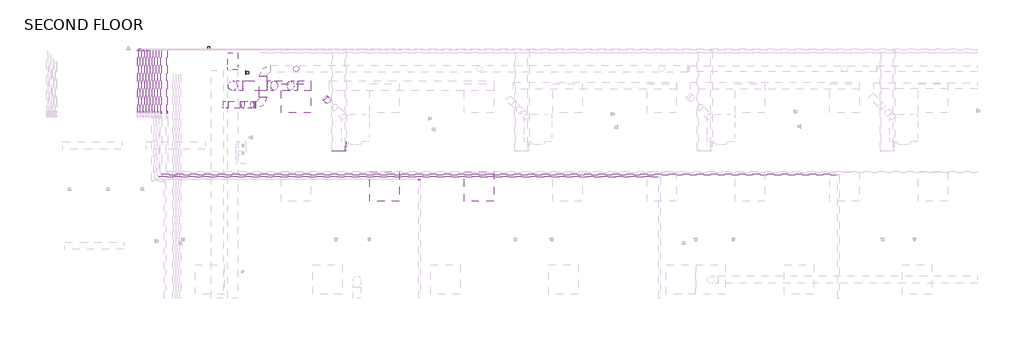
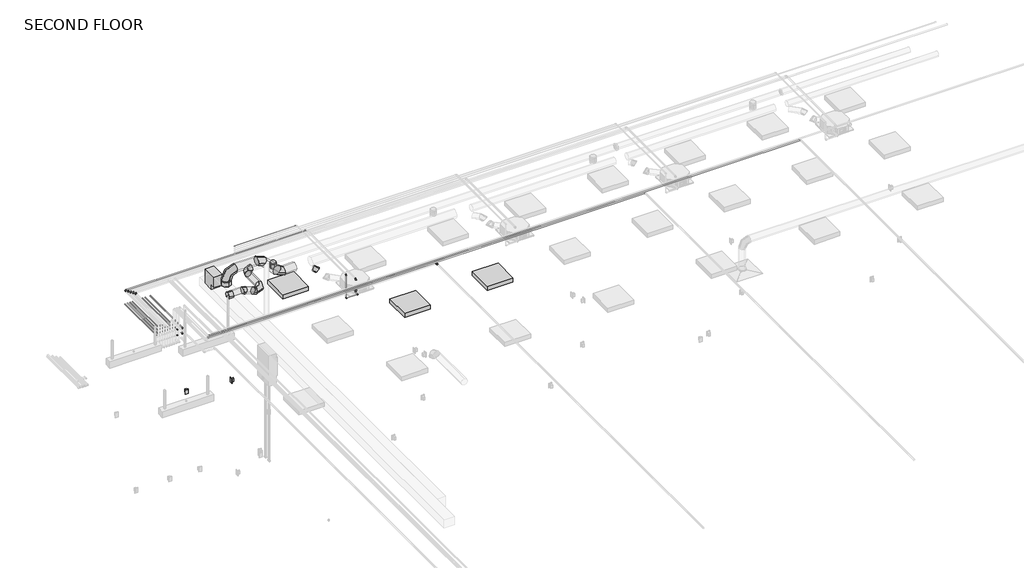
# One storey, part 9 of 12: 20 pipe segments, 15 pipe fittings, 12 duct fittings, 10 duct segments, 3 light fixtures, 2 proxies.
"""IFC4 building model written with IfcOpenShell, lengths in millimetres."""

from ifc_helpers import new_model, si_unit, point, frame, frame_2d, origin, place, context, project, spatial, circle_curve, trimmed, segment, composite_curve, outline, extrude, transform, mapped, element, save
from components import duplex_receptacle_countertop_10251bba, rectangular_elbow_mitered_transition_standard_2c7a3de9, round_elbow_1_d_a253342a, round_elbow_1_d_b37ad80b, round_elbow_1_d_147a1fa0, round_elbow_1_d_ab3aa7ba, round_elbow_1_d_bb13c7cb, round_takeoff_standard_d3b0d0f9, round_takeoff_standard_0d53327c, round_takeoff_standard_bb6ed057, troffer_corner_insert_2x2_3lamp_e67c7f8f, elbow_generic_standard_c06ac706, elbow_generic_standard_a088f956

model = new_model("IFC4")

# Units and contexts
model_context = context("Model", 3, world=origin())
ifc_project = project(units=[si_unit("LENGTHUNIT", "METRE", prefix="MILLI")], contexts=[model_context])

# Site, building, storey
site = spatial("IfcSite", under=ifc_project)
building = spatial("IfcBuilding", under=site)
storey = spatial("IfcBuildingStorey", under=building, Name="SECOND FLOOR", Elevation=34544.0)

# Proxies
placement = place(None, origin())
duplex_receptacle_countertop_shape = duplex_receptacle_countertop_10251bba(model_context)
element("IfcBuildingElementProxy", 1, Name="Duplex Receptacle : Standard", ObjectType="Duplex Receptacle : Standard", at=placement, inside=storey, context=model_context, shape_type="MappedRepresentation", body=[
    mapped(duplex_receptacle_countertop_shape, transform((-6527.0453573, 7674.9695005, 34696.4), x_axis=(1.0, 0.0, 0.0), y_axis=(0.0, 0.0, 1.0), z_axis=(0.0, -1.0, 0.0))),
])
element("IfcBuildingElementProxy", 2, Name="Duplex Receptacle : Standard", ObjectType="Duplex Receptacle : Standard", at=placement, inside=storey, context=model_context, shape_type="MappedRepresentation", body=[
    mapped(duplex_receptacle_countertop_shape, transform((-5755.3204607, 7190.1860032, 35001.2), x_axis=(0.0, -1.0, 0.0), y_axis=(0.0, 0.0, 1.0), z_axis=(-1.0, 0.0, 0.0))),
])

# Duct fittings
rectangular_elbow_mitered_transition_standard_shape = rectangular_elbow_mitered_transition_standard_2c7a3de9(model_context)
element("IfcDuctFitting", 3, ObjectType="Rectangular Elbow - Mitered - Transition : Standard", at=placement, inside=storey, context=model_context, shape_type="MappedRepresentation", body=[
    mapped(rectangular_elbow_mitered_transition_standard_shape, transform((-6029.8204015, 7478.1195005, 37541.2), x_axis=(0.0, 1.0, 0.0), y_axis=(0.0, 0.0, -1.0), z_axis=(-1.0, 0.0, 0.0))),
])
round_elbow_1_d_shape = round_elbow_1_d_a253342a(model_context)
element("IfcDuctFitting", 4, ObjectType="Round Elbow : 1 D", at=placement, inside=storey, context=model_context, shape_type="MappedRepresentation", body=[
    mapped(round_elbow_1_d_shape, transform((-6029.8204015, 6917.6422212, 37998.4), x_axis=(0.0, 0.0, 1.0), y_axis=(1.0, 0.0, 0.0), z_axis=(0.0, 1.0, 0.0))),
])
round_elbow_1_d_2_shape = round_elbow_1_d_b37ad80b(model_context)
element("IfcDuctFitting", 5, ObjectType="Round Elbow : 1 D", at=placement, inside=storey, context=model_context, shape_type="MappedRepresentation", body=[
    mapped(round_elbow_1_d_2_shape, transform((-5401.3079607, 7268.5695005, 37592.0), x_axis=(-1.0, 0.0, 0.0), y_axis=(0.0, -1.0, 0.0), z_axis=(0.0, 0.0, 1.0))),
])
element("IfcDuctFitting", 6, ObjectType="Round Elbow : 1 D", at=placement, inside=storey, context=model_context, shape_type="MappedRepresentation", body=[
    mapped(round_elbow_1_d_2_shape, transform((-5401.3079607, 6523.5557505, 37592.0), x_axis=(1.0, 0.0, 0.0), y_axis=(0.0, 1.0, 0.0), z_axis=(0.0, 0.0, 1.0))),
])
round_elbow_1_d_3_shape = round_elbow_1_d_147a1fa0(model_context)
element("IfcDuctFitting", 7, ObjectType="Round Elbow : 1 D", at=placement, inside=storey, context=model_context, shape_type="MappedRepresentation", body=[
    mapped(round_elbow_1_d_3_shape, transform((-5844.3927822, 6523.5557505, 37693.6), x_axis=(1.0, 0.0, 0.0), y_axis=(0.0, 0.0, -1.0), z_axis=(0.0, 1.0, 0.0))),
])
element("IfcDuctFitting", 8, ObjectType="Round Elbow : 1 D", at=placement, inside=storey, context=model_context, shape_type="MappedRepresentation", body=[
    mapped(round_elbow_1_d_3_shape, transform((-5599.1089295, 6523.5557505, 37592.0), x_axis=(0.9238793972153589, 0.0, -0.3826837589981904), y_axis=(0.3826837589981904, 0.0, 0.9238793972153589), z_axis=(0.0, -1.0, 0.0))),
])
round_elbow_1_d_4_shape = round_elbow_1_d_ab3aa7ba(model_context)
element("IfcDuctFitting", 9, ObjectType="Round Elbow : 1 D", at=placement, inside=storey, context=model_context, shape_type="MappedRepresentation", body=[
    mapped(round_elbow_1_d_4_shape, transform((-4771.0346937, 6917.6422212, 37541.2), x_axis=(0.7071067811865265, 0.0, -0.7071067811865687), y_axis=(0.7071067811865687, 0.0, 0.7071067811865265), z_axis=(0.0, -1.0, 0.0))),
])
element("IfcDuctFitting", 10, ObjectType="Round Elbow : 1 D", at=placement, inside=storey, context=model_context, shape_type="MappedRepresentation", body=[
    mapped(round_elbow_1_d_4_shape, transform((-5228.2346937, 6917.6422212, 37998.4), x_axis=(-0.707106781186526, 0.0, 0.707106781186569), y_axis=(-0.707106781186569, 0.0, -0.707106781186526), z_axis=(0.0, -1.0, 0.0))),
])
round_elbow_1_d_5_shape = round_elbow_1_d_bb13c7cb(model_context)
element("IfcDuctFitting", 11, ObjectType="Round Elbow : 1 D", at=placement, inside=storey, context=model_context, shape_type="MappedRepresentation", body=[
    mapped(round_elbow_1_d_5_shape, transform((-4074.9010189, 6626.3750587, 37541.2), x_axis=(0.7071067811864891, -0.707106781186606, 0.0), y_axis=(0.0, 0.0, -1.0), z_axis=(0.707106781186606, 0.7071067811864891, 0.0))),
])
round_takeoff_standard_shape = round_takeoff_standard_d3b0d0f9(model_context)
element("IfcDuctFitting", 12, ObjectType="Round Takeoff : Standard", at=placement, inside=storey, context=model_context, shape_type="MappedRepresentation", body=[
    mapped(round_takeoff_standard_shape, transform((-6029.8204015, 6917.6422212, 37668.2), x_axis=(0.0, 0.0, 1.0), y_axis=(0.0, 1.0, 0.0), z_axis=(-1.0, 0.0, 0.0))),
])
round_takeoff_standard_2_shape = round_takeoff_standard_0d53327c(model_context)
element("IfcDuctFitting", 13, ObjectType="Round Takeoff : Standard", at=placement, inside=storey, context=model_context, shape_type="MappedRepresentation", body=[
    mapped(round_takeoff_standard_2_shape, transform((-4717.0954607, 7268.5695005, 37515.8), x_axis=(0.0, 0.0, -1.0), y_axis=(-1.0, 0.0, 0.0), z_axis=(0.0, 1.0, 0.0))),
])
round_takeoff_standard_3_shape = round_takeoff_standard_bb6ed057(model_context)
element("IfcDuctFitting", 14, ObjectType="Round Takeoff : Standard", at=placement, inside=storey, context=model_context, shape_type="MappedRepresentation", body=[
    mapped(round_takeoff_standard_3_shape, transform((-6220.3126806, 6523.5557505, 37693.6), x_axis=(1.0, 0.0, 0.0), y_axis=(0.0, -1.0, 0.0), z_axis=(0.0, 0.0, -1.0))),
])

# Duct segments
element("IfcDuctSegment", 15, ObjectType="Taps / Short Radius", at=placement, inside=storey, context=model_context, shape_type="SweptSolid", body=[
    extrude(outline(composite_curve([segment(trimmed(circle_curve(frame_2d((37592.0, -5401.3079607)), 76.2), [point((37592.0, -5477.5079607))], [point((37515.8, -5401.3079607))], False, "CARTESIAN"), True, "CONTINUOUS"), segment(trimmed(circle_curve(frame_2d((37592.0, -5401.3079607)), 76.2), [point((37515.8, -5401.3079607))], [point((37592.0, -5325.1079607))], False, "CARTESIAN"), True, "CONTINUOUS"), segment(trimmed(circle_curve(frame_2d((37592.0, -5401.3079607)), 76.2), [point((37592.0, -5325.1079607))], [point((37668.2, -5401.3079607))], False, "CARTESIAN"), True, "CONTINUOUS"), segment(trimmed(circle_curve(frame_2d((37592.0, -5401.3079607)), 76.2), [point((37668.2, -5401.3079607))], [point((37592.0, -5477.5079607))], False, "CARTESIAN"), True, "CONTINUOUS")], self_intersect=False)), frame((0.0, 6675.9557505, 0.0), z_axis=(0.0, 1.0, 0.0), x_axis=(0.0, 0.0, 1.0)), (0.0, 0.0, 1.0), 440.21375),
])
element("IfcDuctSegment", 16, ObjectType="Taps / Short Radius", at=placement, inside=storey, context=model_context, shape_type="SweptSolid", body=[
    extrude(outline(composite_curve([segment(trimmed(circle_curve(frame_2d((0.0, 63.5)), 63.5), [point((-63.5, 63.5))], [point((0.0, 127.0))], False, "CARTESIAN"), True, "CONTINUOUS"), segment(trimmed(circle_curve(frame_2d((0.0, 63.5)), 63.5), [point((0.0, 127.0))], [point((63.5, 63.5))], False, "CARTESIAN"), True, "CONTINUOUS"), segment(trimmed(circle_curve(frame_2d((0.0, 63.5)), 63.5), [point((63.5, 63.5))], [point((0.0, 0.0))], False, "CARTESIAN"), True, "CONTINUOUS"), segment(trimmed(circle_curve(frame_2d((0.0, 63.5)), 63.5), [point((0.0, 0.0))], [point((-63.5, 63.5))], False, "CARTESIAN"), True, "CONTINUOUS")], self_intersect=False)), frame((-4717.0954607, 7205.0695005, 37388.8), z_axis=(0.0, -3.069544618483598e-12, 1.0), x_axis=(1.0, 0.0, 0.0)), (0.0, 0.0, 1.0), 25.4),
])
element("IfcDuctSegment", 17, ObjectType="Taps / Short Radius", at=placement, inside=storey, context=model_context, shape_type="SweptSolid", body=[
    extrude(outline(composite_curve([segment(trimmed(circle_curve(frame_2d((6523.5557505, 37592.0)), 76.2), [point((6447.3557505, 37592.0))], [point((6523.5557505, 37668.2))], False, "CARTESIAN"), True, "CONTINUOUS"), segment(trimmed(circle_curve(frame_2d((6523.5557505, 37592.0)), 76.2), [point((6523.5557505, 37668.2))], [point((6599.7557505, 37592.0))], False, "CARTESIAN"), True, "CONTINUOUS"), segment(trimmed(circle_curve(frame_2d((6523.5557505, 37592.0)), 76.2), [point((6599.7557505, 37592.0))], [point((6523.5557505, 37515.8))], False, "CARTESIAN"), True, "CONTINUOUS"), segment(trimmed(circle_curve(frame_2d((6523.5557505, 37592.0)), 76.2), [point((6523.5557505, 37515.8))], [point((6447.3557505, 37592.0))], False, "CARTESIAN"), True, "CONTINUOUS")], self_intersect=False)), frame((-5568.7946567, 0.0, 0.0), z_axis=(1.0, 0.0, 0.0), x_axis=(0.0, 1.0, 0.0)), (0.0, 0.0, 1.0), 15.086696),
])
element("IfcDuctSegment", 18, ObjectType="Taps / Short Radius", at=placement, inside=storey, context=model_context, shape_type="SweptSolid", body=[
    extrude(outline(composite_curve([segment(trimmed(circle_curve(frame_2d((6523.5557505, 37693.6)), 76.2), [point((6447.3557505, 37693.6))], [point((6523.5557505, 37769.8))], False, "CARTESIAN"), True, "CONTINUOUS"), segment(trimmed(circle_curve(frame_2d((6523.5557505, 37693.6)), 76.2), [point((6523.5557505, 37769.8))], [point((6599.7557505, 37693.6))], False, "CARTESIAN"), True, "CONTINUOUS"), segment(trimmed(circle_curve(frame_2d((6523.5557505, 37693.6)), 76.2), [point((6599.7557505, 37693.6))], [point((6523.5557505, 37617.4))], False, "CARTESIAN"), True, "CONTINUOUS"), segment(trimmed(circle_curve(frame_2d((6523.5557505, 37693.6)), 76.2), [point((6523.5557505, 37617.4))], [point((6447.3557505, 37693.6))], False, "CARTESIAN"), True, "CONTINUOUS")], self_intersect=False)), frame((-6118.7126806, 0.0, 0.0), z_axis=(1.0, 0.0, 0.0), x_axis=(0.0, 1.0, 0.0)), (0.0, 0.0, 1.0), 244.0056256),
])
element("IfcDuctSegment", 19, ObjectType="Taps / Short Radius", at=placement, inside=storey, context=model_context, shape_type="SweptSolid", body=[
    extrude(outline(composite_curve([segment(trimmed(circle_curve(frame_2d((0.0, -76.2)), 76.2), [point((0.0, -152.4))], [point((-76.2, -76.2))], False, "CARTESIAN"), True, "CONTINUOUS"), segment(trimmed(circle_curve(frame_2d((0.0, -76.2)), 76.2), [point((-76.2, -76.2))], [point((0.0, 0.0))], False, "CARTESIAN"), True, "CONTINUOUS"), segment(trimmed(circle_curve(frame_2d((0.0, -76.2)), 76.2), [point((0.0, 0.0))], [point((76.1999999, -76.2))], False, "CARTESIAN"), True, "CONTINUOUS"), segment(trimmed(circle_curve(frame_2d((0.0, -76.2)), 76.2), [point((76.1999999, -76.2))], [point((0.0, -152.4))], False, "CARTESIAN"), True, "CONTINUOUS")], self_intersect=False)), frame((-5627.1156616, 6599.7557505, 37603.6007799), z_axis=(-0.9238793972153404, 0.0, 0.3826837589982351), x_axis=(0.3826837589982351, 0.0, 0.9238793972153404)), (0.0, 0.0, 1.0), 204.8648223),
])
element("IfcDuctSegment", 20, ObjectType="Taps / Short Radius", at=placement, inside=storey, context=model_context, shape_type="SweptSolid", body=[
    extrude(outline(composite_curve([segment(trimmed(circle_curve(frame_2d((6917.6422212, 37541.2)), 101.6), [point((6816.0422212, 37541.2))], [point((6917.6422212, 37642.8))], False, "CARTESIAN"), True, "CONTINUOUS"), segment(trimmed(circle_curve(frame_2d((6917.6422212, 37541.2)), 101.6), [point((6917.6422212, 37642.8))], [point((7019.2422212, 37541.2))], False, "CARTESIAN"), True, "CONTINUOUS"), segment(trimmed(circle_curve(frame_2d((6917.6422212, 37541.2)), 101.6), [point((7019.2422212, 37541.2))], [point((6917.6422212, 37439.6))], False, "CARTESIAN"), True, "CONTINUOUS"), segment(trimmed(circle_curve(frame_2d((6917.6422212, 37541.2)), 101.6), [point((6917.6422212, 37439.6))], [point((6816.0422212, 37541.2))], False, "CARTESIAN"), True, "CONTINUOUS")], self_intersect=False)), frame((-4686.8664978, 0.0, 0.0), z_axis=(1.0, 0.0, 0.0), x_axis=(0.0, 1.0, 0.0)), (0.0, 0.0, 1.0), 275.7970359),
])
element("IfcDuctSegment", 21, ObjectType="Taps / Short Radius", at=placement, inside=storey, context=model_context, shape_type="SweptSolid", body=[
    extrude(outline(composite_curve([segment(trimmed(circle_curve(frame_2d((0.0, -101.6)), 101.6), [point((0.0, 0.0))], [point((101.6, -101.6))], False, "CARTESIAN"), True, "CONTINUOUS"), segment(trimmed(circle_curve(frame_2d((0.0, -101.6)), 101.6), [point((101.6, -101.6))], [point((0.0, -203.2))], False, "CARTESIAN"), True, "CONTINUOUS"), segment(trimmed(circle_curve(frame_2d((0.0, -101.6)), 101.6), [point((0.0, -203.2))], [point((-101.6, -101.6))], False, "CARTESIAN"), True, "CONTINUOUS"), segment(trimmed(circle_curve(frame_2d((0.0, -101.6)), 101.6), [point((-101.6, -101.6))], [point((0.0, 0.0))], False, "CARTESIAN"), True, "CONTINUOUS")], self_intersect=False)), frame((-4830.5505958, 7019.2422212, 37600.7159021), z_axis=(-0.7071067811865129, 0.0, 0.7071067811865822), x_axis=(0.7071067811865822, 0.0, 0.7071067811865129)), (0.0, 0.0, 1.0), 478.242049),
])
element("IfcDuctSegment", 22, ObjectType="Taps / Short Radius", at=placement, inside=storey, context=model_context, shape_type="SweptSolid", body=[
    extrude(outline(composite_curve([segment(trimmed(circle_curve(frame_2d((0.0, -63.5)), 63.5), [point((-63.5, -63.5))], [point((0.0, 0.0))], False, "CARTESIAN"), True, "CONTINUOUS"), segment(trimmed(circle_curve(frame_2d((0.0, -63.5)), 63.5), [point((0.0, 0.0))], [point((63.5, -63.5))], False, "CARTESIAN"), True, "CONTINUOUS"), segment(trimmed(circle_curve(frame_2d((0.0, -63.5)), 63.5), [point((63.5, -63.5))], [point((0.0, -127.0))], False, "CARTESIAN"), True, "CONTINUOUS"), segment(trimmed(circle_curve(frame_2d((0.0, -63.5)), 63.5), [point((0.0, -127.0))], [point((-63.5, -63.5))], False, "CARTESIAN"), True, "CONTINUOUS")], self_intersect=False)), frame((-4103.4147276, 6654.8887674, 37477.7), z_axis=(-0.7071067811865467, 0.7071067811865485, 0.0), x_axis=(0.7071067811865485, 0.7071067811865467, 0.0)), (0.0, 0.0, 1.0), 20.7213021),
])
element("IfcDuctSegment", 23, ObjectType="Taps / Short Radius", at=placement, inside=storey, context=model_context, shape_type="SweptSolid", body=[
    extrude(outline(composite_curve([segment(trimmed(circle_curve(frame_2d((6917.6422212, 37998.4)), 101.6), [point((6816.0422212, 37998.4))], [point((6917.6422212, 38100.0))], False, "CARTESIAN"), True, "CONTINUOUS"), segment(trimmed(circle_curve(frame_2d((6917.6422212, 37998.4)), 101.6), [point((6917.6422212, 38100.0))], [point((7019.2422212, 37998.4))], False, "CARTESIAN"), True, "CONTINUOUS"), segment(trimmed(circle_curve(frame_2d((6917.6422212, 37998.4)), 101.6), [point((7019.2422212, 37998.4))], [point((6917.6422212, 37896.8))], False, "CARTESIAN"), True, "CONTINUOUS"), segment(trimmed(circle_curve(frame_2d((6917.6422212, 37998.4)), 101.6), [point((6917.6422212, 37896.8))], [point((6816.0422212, 37998.4))], False, "CARTESIAN"), True, "CONTINUOUS")], self_intersect=False)), frame((-5826.6204015, 0.0, 0.0), z_axis=(1.0, 0.0, 0.0), x_axis=(0.0, 1.0, 0.0)), (0.0, 0.0, 1.0), 514.2175119),
])
element("IfcDuctSegment", 24, ObjectType="Taps / Short Radius", at=placement, inside=storey, context=model_context, shape_type="SweptSolid", body=[
    extrude(outline(composite_curve([segment(trimmed(circle_curve(frame_2d((0.0, 101.6)), 101.6), [point((0.0, 0.0))], [point((-101.6, 101.6))], False, "CARTESIAN"), True, "CONTINUOUS"), segment(trimmed(circle_curve(frame_2d((0.0, 101.6)), 101.6), [point((-101.6, 101.6))], [point((0.0, 203.2))], False, "CARTESIAN"), True, "CONTINUOUS"), segment(trimmed(circle_curve(frame_2d((0.0, 101.6)), 101.6), [point((0.0, 203.2))], [point((101.6, 101.6))], False, "CARTESIAN"), True, "CONTINUOUS"), segment(trimmed(circle_curve(frame_2d((0.0, 101.6)), 101.6), [point((101.6, 101.6))], [point((0.0, 0.0))], False, "CARTESIAN"), True, "CONTINUOUS")], self_intersect=False)), frame((-6029.8204015, 6816.0422212, 37769.8), z_axis=(0.0, -1.0658141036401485e-12, 1.0), x_axis=(1.0, 0.0, 0.0)), (0.0, 0.0, 1.0), 25.4),
])

# Light fixtures
troffer_corner_insert_2x2_3lamp_shape = troffer_corner_insert_2x2_3lamp_e67c7f8f(model_context)
element("IfcLightFixture", 25, ObjectType="Troffer Corner Insert : 2x2 3Lamp", at=placement, inside=storey, context=model_context, shape_type="MappedRepresentation", body=[
    mapped(troffer_corner_insert_2x2_3lamp_shape, transform((-4717.0954607, 6658.9695005, 34848.8), x_axis=(1.0, 0.0, 0.0), y_axis=(0.0, 1.0, 0.0), z_axis=(0.0, 0.0, 1.0))),
])
element("IfcLightFixture", 26, ObjectType="Troffer Corner Insert : 2x2 3Lamp", at=placement, inside=storey, context=model_context, shape_type="MappedRepresentation", body=[
    mapped(troffer_corner_insert_2x2_3lamp_shape, transform((-2888.2954607, 4830.1695005, 34848.8), x_axis=(1.0, 0.0, 0.0), y_axis=(0.0, 1.0, 0.0), z_axis=(0.0, 0.0, 1.0))),
])
element("IfcLightFixture", 27, ObjectType="Troffer Corner Insert : 2x2 3Lamp", at=placement, inside=storey, context=model_context, shape_type="MappedRepresentation", body=[
    mapped(troffer_corner_insert_2x2_3lamp_shape, transform((-935.6704607, 4830.1695005, 34848.8), x_axis=(1.0, 0.0, 0.0), y_axis=(0.0, 1.0, 0.0), z_axis=(0.0, 0.0, 1.0))),
])

# Pipe fittings
elbow_generic_standard_shape = elbow_generic_standard_c06ac706(model_context)
element("IfcPipeFitting", 28, ObjectType="Elbow - Generic : Standard", at=placement, inside=storey, context=model_context, shape_type="MappedRepresentation", body=[
    mapped(elbow_generic_standard_shape, transform((-7991.0790543, 7663.8570005, 37744.4), x_axis=(-1.0, 0.0, 0.0), y_axis=(0.0, -1.0, 0.0), z_axis=(0.0, 0.0, 1.0))),
])
element("IfcPipeFitting", 29, ObjectType="Elbow - Generic : Standard", at=placement, inside=storey, context=model_context, shape_type="MappedRepresentation", body=[
    mapped(elbow_generic_standard_shape, transform((-3690.7767107, 5656.267336, 37744.4), x_axis=(0.0, 0.0, 1.0), y_axis=(0.0, 1.0, 0.0), z_axis=(-1.0, 0.0, 0.0))),
])
element("IfcPipeFitting", 30, ObjectType="Elbow - Generic : Standard", at=placement, inside=storey, context=model_context, shape_type="MappedRepresentation", body=[
    mapped(elbow_generic_standard_shape, transform((-7931.0790543, 7663.8570005, 37706.3), x_axis=(-1.0, 0.0, 0.0), y_axis=(0.0, -1.0, 0.0), z_axis=(0.0, 0.0, 1.0))),
])
element("IfcPipeFitting", 31, ObjectType="Elbow - Generic : Standard", at=placement, inside=storey, context=model_context, shape_type="MappedRepresentation", body=[
    mapped(elbow_generic_standard_shape, transform((-7871.0790543, 7663.8570005, 37668.2), x_axis=(-1.0, 0.0, 0.0), y_axis=(0.0, -1.0, 0.0), z_axis=(0.0, 0.0, 1.0))),
])
element("IfcPipeFitting", 32, ObjectType="Elbow - Generic : Standard", at=placement, inside=storey, context=model_context, shape_type="MappedRepresentation", body=[
    mapped(elbow_generic_standard_shape, transform((-7811.0790543, 7663.8570005, 37630.1), x_axis=(-1.0, 0.0, 0.0), y_axis=(0.0, -1.0, 0.0), z_axis=(0.0, 0.0, 1.0))),
])
element("IfcPipeFitting", 33, ObjectType="Elbow - Generic : Standard", at=placement, inside=storey, context=model_context, shape_type="MappedRepresentation", body=[
    mapped(elbow_generic_standard_shape, transform((-7751.0790543, 7663.8570005, 37592.0), x_axis=(-1.0, 0.0, 0.0), y_axis=(0.0, -1.0, 0.0), z_axis=(0.0, 0.0, 1.0))),
])
element("IfcPipeFitting", 34, ObjectType="Elbow - Generic : Standard", at=placement, inside=storey, context=model_context, shape_type="MappedRepresentation", body=[
    mapped(elbow_generic_standard_shape, transform((-2162.9667107, 4983.2701311, 37998.4), x_axis=(0.0, 1.0, 0.0), y_axis=(-1.0, 0.0, 0.0), z_axis=(0.0, 0.0, 1.0))),
])
element("IfcPipeFitting", 35, ObjectType="Elbow - Generic : Standard", at=placement, inside=storey, context=model_context, shape_type="MappedRepresentation", body=[
    mapped(elbow_generic_standard_shape, transform((-3690.7767107, 5656.267336, 37437.2187602), x_axis=(0.0, 0.0, -1.0), y_axis=(0.0, 1.0, 0.0), z_axis=(1.0, 0.0, 0.0))),
])
elbow_generic_standard_2_shape = elbow_generic_standard_a088f956(model_context)
element("IfcPipeFitting", 36, ObjectType="Elbow - Generic : Standard", at=placement, inside=storey, context=model_context, shape_type="MappedRepresentation", body=[
    mapped(elbow_generic_standard_2_shape, transform((-7511.0790543, 6350.1076209, 37245.9125), x_axis=(0.0, -1.0, 0.0), y_axis=(0.0, 0.0, 1.0), z_axis=(-1.0, 0.0, 0.0))),
])
element("IfcPipeFitting", 37, ObjectType="Elbow - Generic : Standard", at=placement, inside=storey, context=model_context, shape_type="MappedRepresentation", body=[
    mapped(elbow_generic_standard_2_shape, transform((-7511.0790543, 6350.1076209, 37398.3125), x_axis=(0.0, 0.0, 1.0), y_axis=(0.0, 1.0, 0.0), z_axis=(-1.0, 0.0, 0.0))),
])
element("IfcPipeFitting", 38, ObjectType="Elbow - Generic : Standard", at=placement, inside=storey, context=model_context, shape_type="MappedRepresentation", body=[
    mapped(elbow_generic_standard_2_shape, transform((-7391.0790543, 6350.1076209, 37245.9125), x_axis=(0.0, -1.0, 0.0), y_axis=(0.0, 0.0, 1.0), z_axis=(-1.0, 0.0, 0.0))),
])
element("IfcPipeFitting", 39, ObjectType="Elbow - Generic : Standard", at=placement, inside=storey, context=model_context, shape_type="MappedRepresentation", body=[
    mapped(elbow_generic_standard_2_shape, transform((-7391.0790543, 6350.1076209, 37398.3125), x_axis=(0.0, 0.0, 1.0), y_axis=(0.0, 1.0, 0.0), z_axis=(-1.0, 0.0, 0.0))),
])
element("IfcPipeFitting", 40, ObjectType="Elbow - Generic : Standard", at=placement, inside=storey, context=model_context, shape_type="MappedRepresentation", body=[
    mapped(elbow_generic_standard_2_shape, transform((-3693.9517107, 5568.3570005, 37407.85), x_axis=(1.0, 0.0, 0.0), y_axis=(0.0, 0.9999999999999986, 5.375459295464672e-08), z_axis=(0.0, -5.375459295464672e-08, 0.9999999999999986))),
])
element("IfcPipeFitting", 41, ObjectType="Elbow - Generic : Standard", at=placement, inside=storey, context=model_context, shape_type="MappedRepresentation", body=[
    mapped(elbow_generic_standard_2_shape, transform((-3973.3517107, 5568.3570005, 37407.85), x_axis=(-1.0, 0.0, 0.0), y_axis=(0.0, 0.0, 1.0), z_axis=(0.0, 1.0, 0.0))),
])
element("IfcPipeFitting", 42, ObjectType="Elbow - Generic : Standard", at=placement, inside=storey, context=model_context, shape_type="MappedRepresentation", body=[
    mapped(elbow_generic_standard_2_shape, transform((-3973.3517107, 5568.3570005, 37998.4), x_axis=(0.0, 0.0, 1.0), y_axis=(0.0, 1.0, 0.0), z_axis=(-1.0, 0.0, 0.0))),
])

# Pipe segments
element("IfcPipeSegment", 43, ObjectType="Copper Tubing", at=placement, inside=storey, context=model_context, shape_type="SweptSolid", body=[
    extrude(outline(composite_curve([segment(trimmed(circle_curve(frame_2d((7663.8570005, 37744.4)), 14.2875), [point((7649.5695005, 37744.4))], [point((7663.8570005, 37758.6875))], False, "CARTESIAN"), True, "CONTINUOUS"), segment(trimmed(circle_curve(frame_2d((7663.8570005, 37744.4)), 14.2875), [point((7663.8570005, 37758.6875))], [point((7678.1445005, 37744.4))], False, "CARTESIAN"), True, "CONTINUOUS"), segment(trimmed(circle_curve(frame_2d((7663.8570005, 37744.4)), 14.2875), [point((7678.1445005, 37744.4))], [point((7663.8570005, 37730.1125))], False, "CARTESIAN"), True, "CONTINUOUS"), segment(trimmed(circle_curve(frame_2d((7663.8570005, 37744.4)), 14.2875), [point((7663.8570005, 37730.1125))], [point((7649.5695005, 37744.4))], False, "CARTESIAN"), True, "CONTINUOUS")], self_intersect=False)), frame((-7970.4415543, 0.0, 0.0), z_axis=(1.0, 0.0, 0.0), x_axis=(0.0, 1.0, 0.0)), (0.0, 0.0, 1.0), 4259.0273436),
])
element("IfcPipeSegment", 44, ObjectType="Copper Tubing", at=placement, inside=storey, context=model_context, shape_type="SweptSolid", body=[
    extrude(outline(composite_curve([segment(trimmed(circle_curve(frame_2d((5034.0701311, 37998.4)), 14.2875), [point((5019.7826311, 37998.4))], [point((5034.0701311, 38012.6875))], False, "CARTESIAN"), True, "CONTINUOUS"), segment(trimmed(circle_curve(frame_2d((5034.0701311, 37998.4)), 14.2875), [point((5034.0701311, 38012.6875))], [point((5048.3576311, 37998.4))], False, "CARTESIAN"), True, "CONTINUOUS"), segment(trimmed(circle_curve(frame_2d((5034.0701311, 37998.4)), 14.2875), [point((5048.3576311, 37998.4))], [point((5034.0701311, 37984.1125))], False, "CARTESIAN"), True, "CONTINUOUS"), segment(trimmed(circle_curve(frame_2d((5034.0701311, 37998.4)), 14.2875), [point((5034.0701311, 37984.1125))], [point((5019.7826311, 37998.4))], False, "CARTESIAN"), True, "CONTINUOUS")], self_intersect=False)), frame((-7550.4415543, 0.0, 0.0), z_axis=(1.0, 0.0, 0.0), x_axis=(0.0, 1.0, 0.0)), (0.0, 0.0, 1.0), 10327.4573436),
])
element("IfcPipeSegment", 45, ObjectType="Copper Tubing", at=placement, inside=storey, context=model_context, shape_type="SweptSolid", body=[
    extrude(outline(composite_curve([segment(trimmed(circle_curve(frame_2d((5084.8701311, 37998.4)), 14.2875), [point((5070.5826311, 37998.4))], [point((5084.8701311, 38012.6875))], False, "CARTESIAN"), True, "CONTINUOUS"), segment(trimmed(circle_curve(frame_2d((5084.8701311, 37998.4)), 14.2875), [point((5084.8701311, 38012.6875))], [point((5099.1576311, 37998.4))], False, "CARTESIAN"), True, "CONTINUOUS"), segment(trimmed(circle_curve(frame_2d((5084.8701311, 37998.4)), 14.2875), [point((5099.1576311, 37998.4))], [point((5084.8701311, 37984.1125))], False, "CARTESIAN"), True, "CONTINUOUS"), segment(trimmed(circle_curve(frame_2d((5084.8701311, 37998.4)), 14.2875), [point((5084.8701311, 37984.1125))], [point((5070.5826311, 37998.4))], False, "CARTESIAN"), True, "CONTINUOUS")], self_intersect=False)), frame((-7490.4415543, 0.0, 0.0), z_axis=(1.0, 0.0, 0.0), x_axis=(0.0, 1.0, 0.0)), (0.0, 0.0, 1.0), 13970.3010936),
])
element("IfcPipeSegment", 46, ObjectType="Copper Tubing", at=placement, inside=storey, context=model_context, shape_type="SweptSolid", body=[
    extrude(outline(composite_curve([segment(trimmed(circle_curve(frame_2d((37398.3125, -7991.0790543)), 7.9375), [point((37398.3125, -7983.1415543))], [point((37406.25, -7991.0790543))], False, "CARTESIAN"), True, "CONTINUOUS"), segment(trimmed(circle_curve(frame_2d((37398.3125, -7991.0790543)), 7.9375), [point((37406.25, -7991.0790543))], [point((37398.3125, -7999.0165543))], False, "CARTESIAN"), True, "CONTINUOUS"), segment(trimmed(circle_curve(frame_2d((37398.3125, -7991.0790543)), 7.9375), [point((37398.3125, -7999.0165543))], [point((37390.375, -7991.0790543))], False, "CARTESIAN"), True, "CONTINUOUS"), segment(trimmed(circle_curve(frame_2d((37398.3125, -7991.0790543)), 7.9375), [point((37390.375, -7991.0790543))], [point((37398.3125, -7983.1415543))], False, "CARTESIAN"), True, "CONTINUOUS")], self_intersect=False)), frame((0.0, 6364.3951209, 0.0), z_axis=(0.0, 1.0, 0.0), x_axis=(0.0, 0.0, 1.0)), (0.0, 0.0, 1.0), 1306.5125),
])
element("IfcPipeSegment", 47, ObjectType="Copper Tubing", at=placement, inside=storey, context=model_context, shape_type="SweptSolid", body=[
    extrude(outline(composite_curve([segment(trimmed(circle_curve(frame_2d((37398.3125, -7931.0790543)), 7.9375), [point((37398.3125, -7923.1415543))], [point((37406.25, -7931.0790543))], False, "CARTESIAN"), True, "CONTINUOUS"), segment(trimmed(circle_curve(frame_2d((37398.3125, -7931.0790543)), 7.9375), [point((37406.25, -7931.0790543))], [point((37398.3125, -7939.0165543))], False, "CARTESIAN"), True, "CONTINUOUS"), segment(trimmed(circle_curve(frame_2d((37398.3125, -7931.0790543)), 7.9375), [point((37398.3125, -7939.0165543))], [point((37390.375, -7931.0790543))], False, "CARTESIAN"), True, "CONTINUOUS"), segment(trimmed(circle_curve(frame_2d((37398.3125, -7931.0790543)), 7.9375), [point((37390.375, -7931.0790543))], [point((37398.3125, -7923.1415543))], False, "CARTESIAN"), True, "CONTINUOUS")], self_intersect=False)), frame((0.0, 6364.3951209, 0.0), z_axis=(0.0, 1.0, 0.0), x_axis=(0.0, 0.0, 1.0)), (0.0, 0.0, 1.0), 1306.5125),
])
element("IfcPipeSegment", 48, ObjectType="Copper Tubing", at=placement, inside=storey, context=model_context, shape_type="SweptSolid", body=[
    extrude(outline(composite_curve([segment(trimmed(circle_curve(frame_2d((37398.3125, -7871.0790543)), 7.9375), [point((37398.3125, -7863.1415543))], [point((37406.25, -7871.0790543))], False, "CARTESIAN"), True, "CONTINUOUS"), segment(trimmed(circle_curve(frame_2d((37398.3125, -7871.0790543)), 7.9375), [point((37406.25, -7871.0790543))], [point((37398.3125, -7879.0165543))], False, "CARTESIAN"), True, "CONTINUOUS"), segment(trimmed(circle_curve(frame_2d((37398.3125, -7871.0790543)), 7.9375), [point((37398.3125, -7879.0165543))], [point((37390.375, -7871.0790543))], False, "CARTESIAN"), True, "CONTINUOUS"), segment(trimmed(circle_curve(frame_2d((37398.3125, -7871.0790543)), 7.9375), [point((37390.375, -7871.0790543))], [point((37398.3125, -7863.1415543))], False, "CARTESIAN"), True, "CONTINUOUS")], self_intersect=False)), frame((0.0, 6364.3951209, 0.0), z_axis=(0.0, 1.0, 0.0), x_axis=(0.0, 0.0, 1.0)), (0.0, 0.0, 1.0), 1306.5125),
])
element("IfcPipeSegment", 49, ObjectType="Copper Tubing", at=placement, inside=storey, context=model_context, shape_type="SweptSolid", body=[
    extrude(outline(composite_curve([segment(trimmed(circle_curve(frame_2d((37398.3125, -7811.0790543)), 7.9375), [point((37398.3125, -7803.1415543))], [point((37406.25, -7811.0790543))], False, "CARTESIAN"), True, "CONTINUOUS"), segment(trimmed(circle_curve(frame_2d((37398.3125, -7811.0790543)), 7.9375), [point((37406.25, -7811.0790543))], [point((37398.3125, -7819.0165543))], False, "CARTESIAN"), True, "CONTINUOUS"), segment(trimmed(circle_curve(frame_2d((37398.3125, -7811.0790543)), 7.9375), [point((37398.3125, -7819.0165543))], [point((37390.375, -7811.0790543))], False, "CARTESIAN"), True, "CONTINUOUS"), segment(trimmed(circle_curve(frame_2d((37398.3125, -7811.0790543)), 7.9375), [point((37390.375, -7811.0790543))], [point((37398.3125, -7803.1415543))], False, "CARTESIAN"), True, "CONTINUOUS")], self_intersect=False)), frame((0.0, 6364.3951209, 0.0), z_axis=(0.0, 1.0, 0.0), x_axis=(0.0, 0.0, 1.0)), (0.0, 0.0, 1.0), 1306.5125),
])
element("IfcPipeSegment", 50, ObjectType="Copper Tubing", at=placement, inside=storey, context=model_context, shape_type="SweptSolid", body=[
    extrude(outline(composite_curve([segment(trimmed(circle_curve(frame_2d((37398.3125, -7751.0790543)), 7.9375), [point((37398.3125, -7743.1415543))], [point((37406.25, -7751.0790543))], False, "CARTESIAN"), True, "CONTINUOUS"), segment(trimmed(circle_curve(frame_2d((37398.3125, -7751.0790543)), 7.9375), [point((37406.25, -7751.0790543))], [point((37398.3125, -7759.0165543))], False, "CARTESIAN"), True, "CONTINUOUS"), segment(trimmed(circle_curve(frame_2d((37398.3125, -7751.0790543)), 7.9375), [point((37398.3125, -7759.0165543))], [point((37390.375, -7751.0790543))], False, "CARTESIAN"), True, "CONTINUOUS"), segment(trimmed(circle_curve(frame_2d((37398.3125, -7751.0790543)), 7.9375), [point((37390.375, -7751.0790543))], [point((37398.3125, -7743.1415543))], False, "CARTESIAN"), True, "CONTINUOUS")], self_intersect=False)), frame((0.0, 6364.3951209, 0.0), z_axis=(0.0, 1.0, 0.0), x_axis=(0.0, 0.0, 1.0)), (0.0, 0.0, 1.0), 1306.5125),
])
element("IfcPipeSegment", 51, ObjectType="Copper Tubing", at=placement, inside=storey, context=model_context, shape_type="SweptSolid", body=[
    extrude(outline(composite_curve([segment(trimmed(circle_curve(frame_2d((37398.3125, -7691.0790543)), 7.9375), [point((37398.3125, -7683.1415543))], [point((37406.25, -7691.0790543))], False, "CARTESIAN"), True, "CONTINUOUS"), segment(trimmed(circle_curve(frame_2d((37398.3125, -7691.0790543)), 7.9375), [point((37406.25, -7691.0790543))], [point((37398.3125, -7699.0165543))], False, "CARTESIAN"), True, "CONTINUOUS"), segment(trimmed(circle_curve(frame_2d((37398.3125, -7691.0790543)), 7.9375), [point((37398.3125, -7699.0165543))], [point((37390.375, -7691.0790543))], False, "CARTESIAN"), True, "CONTINUOUS"), segment(trimmed(circle_curve(frame_2d((37398.3125, -7691.0790543)), 7.9375), [point((37390.375, -7691.0790543))], [point((37398.3125, -7683.1415543))], False, "CARTESIAN"), True, "CONTINUOUS")], self_intersect=False)), frame((0.0, 6364.3951209, 0.0), z_axis=(0.0, 1.0, 0.0), x_axis=(0.0, 0.0, 1.0)), (0.0, 0.0, 1.0), 1306.5125),
])
element("IfcPipeSegment", 52, ObjectType="Copper Tubing", at=placement, inside=storey, context=model_context, shape_type="SweptSolid", body=[
    extrude(outline(composite_curve([segment(trimmed(circle_curve(frame_2d((37398.3125, -7631.0790543)), 7.9375), [point((37398.3125, -7623.1415543))], [point((37406.25, -7631.0790543))], False, "CARTESIAN"), True, "CONTINUOUS"), segment(trimmed(circle_curve(frame_2d((37398.3125, -7631.0790543)), 7.9375), [point((37406.25, -7631.0790543))], [point((37398.3125, -7639.0165543))], False, "CARTESIAN"), True, "CONTINUOUS"), segment(trimmed(circle_curve(frame_2d((37398.3125, -7631.0790543)), 7.9375), [point((37398.3125, -7639.0165543))], [point((37390.375, -7631.0790543))], False, "CARTESIAN"), True, "CONTINUOUS"), segment(trimmed(circle_curve(frame_2d((37398.3125, -7631.0790543)), 7.9375), [point((37390.375, -7631.0790543))], [point((37398.3125, -7623.1415543))], False, "CARTESIAN"), True, "CONTINUOUS")], self_intersect=False)), frame((0.0, 6364.3951209, 0.0), z_axis=(0.0, 1.0, 0.0), x_axis=(0.0, 0.0, 1.0)), (0.0, 0.0, 1.0), 1306.5125),
])
element("IfcPipeSegment", 53, ObjectType="Copper Tubing", at=placement, inside=storey, context=model_context, shape_type="SweptSolid", body=[
    extrude(outline(composite_curve([segment(trimmed(circle_curve(frame_2d((37398.3125, -7571.0790543)), 7.9375), [point((37398.3125, -7563.1415543))], [point((37406.25, -7571.0790543))], False, "CARTESIAN"), True, "CONTINUOUS"), segment(trimmed(circle_curve(frame_2d((37398.3125, -7571.0790543)), 7.9375), [point((37406.25, -7571.0790543))], [point((37398.3125, -7579.0165543))], False, "CARTESIAN"), True, "CONTINUOUS"), segment(trimmed(circle_curve(frame_2d((37398.3125, -7571.0790543)), 7.9375), [point((37398.3125, -7579.0165543))], [point((37390.375, -7571.0790543))], False, "CARTESIAN"), True, "CONTINUOUS"), segment(trimmed(circle_curve(frame_2d((37398.3125, -7571.0790543)), 7.9375), [point((37390.375, -7571.0790543))], [point((37398.3125, -7563.1415543))], False, "CARTESIAN"), True, "CONTINUOUS")], self_intersect=False)), frame((0.0, 6364.3951209, 0.0), z_axis=(0.0, 1.0, 0.0), x_axis=(0.0, 0.0, 1.0)), (0.0, 0.0, 1.0), 1306.5125),
])
element("IfcPipeSegment", 54, ObjectType="Copper Tubing", at=placement, inside=storey, context=model_context, shape_type="SweptSolid", body=[
    extrude(outline(composite_curve([segment(trimmed(circle_curve(frame_2d((37398.3125, -7511.0790543)), 7.9375), [point((37398.3125, -7503.1415543))], [point((37406.25, -7511.0790543))], False, "CARTESIAN"), True, "CONTINUOUS"), segment(trimmed(circle_curve(frame_2d((37398.3125, -7511.0790543)), 7.9375), [point((37406.25, -7511.0790543))], [point((37398.3125, -7519.0165543))], False, "CARTESIAN"), True, "CONTINUOUS"), segment(trimmed(circle_curve(frame_2d((37398.3125, -7511.0790543)), 7.9375), [point((37398.3125, -7519.0165543))], [point((37390.375, -7511.0790543))], False, "CARTESIAN"), True, "CONTINUOUS"), segment(trimmed(circle_curve(frame_2d((37398.3125, -7511.0790543)), 7.9375), [point((37390.375, -7511.0790543))], [point((37398.3125, -7503.1415543))], False, "CARTESIAN"), True, "CONTINUOUS")], self_intersect=False)), frame((0.0, 6364.3951209, 0.0), z_axis=(0.0, 1.0, 0.0), x_axis=(0.0, 0.0, 1.0)), (0.0, 0.0, 1.0), 1306.5125),
])
element("IfcPipeSegment", 55, ObjectType="Copper Tubing", at=placement, inside=storey, context=model_context, shape_type="SweptSolid", body=[
    extrude(outline(composite_curve([segment(trimmed(circle_curve(frame_2d((37245.9125, -7391.0790543)), 7.9375), [point((37245.9125, -7399.0165543))], [point((37237.975, -7391.0790543))], False, "CARTESIAN"), True, "CONTINUOUS"), segment(trimmed(circle_curve(frame_2d((37245.9125, -7391.0790543)), 7.9375), [point((37237.975, -7391.0790543))], [point((37245.9125, -7383.1415543))], False, "CARTESIAN"), True, "CONTINUOUS"), segment(trimmed(circle_curve(frame_2d((37245.9125, -7391.0790543)), 7.9375), [point((37245.9125, -7383.1415543))], [point((37253.85, -7391.0790543))], False, "CARTESIAN"), True, "CONTINUOUS"), segment(trimmed(circle_curve(frame_2d((37245.9125, -7391.0790543)), 7.9375), [point((37253.85, -7391.0790543))], [point((37245.9125, -7399.0165543))], False, "CARTESIAN"), True, "CONTINUOUS")], self_intersect=False)), frame((0.0, 6364.3951209, 0.0), z_axis=(0.0, 1.0, 0.0), x_axis=(0.0, 0.0, 1.0)), (0.0, 0.0, 1.0), 36.5125),
])
element("IfcPipeSegment", 56, ObjectType="Copper Tubing", at=placement, inside=storey, context=model_context, shape_type="SweptSolid", body=[
    extrude(outline(composite_curve([segment(trimmed(circle_curve(frame_2d((-7391.0790543, 6350.1076209)), 7.9375), [point((-7399.0165543, 6350.1076209))], [point((-7391.0790543, 6358.0451209))], False, "CARTESIAN"), True, "CONTINUOUS"), segment(trimmed(circle_curve(frame_2d((-7391.0790543, 6350.1076209)), 7.9375), [point((-7391.0790543, 6358.0451209))], [point((-7383.1415543, 6350.1076209))], False, "CARTESIAN"), True, "CONTINUOUS"), segment(trimmed(circle_curve(frame_2d((-7391.0790543, 6350.1076209)), 7.9375), [point((-7383.1415543, 6350.1076209))], [point((-7391.0790543, 6342.1701209))], False, "CARTESIAN"), True, "CONTINUOUS"), segment(trimmed(circle_curve(frame_2d((-7391.0790543, 6350.1076209)), 7.9375), [point((-7391.0790543, 6342.1701209))], [point((-7399.0165543, 6350.1076209))], False, "CARTESIAN"), True, "CONTINUOUS")], self_intersect=False)), frame((0.0, 0.0, 37260.2), z_axis=(0.0, 0.0, 1.0), x_axis=(1.0, 0.0, 0.0)), (0.0, 0.0, 1.0), 123.825),
])
element("IfcPipeSegment", 57, ObjectType="Copper Tubing", at=placement, inside=storey, context=model_context, shape_type="SweptSolid", body=[
    extrude(outline(composite_curve([segment(trimmed(circle_curve(frame_2d((37398.3125, -7391.0790543)), 7.9375), [point((37398.3125, -7383.1415543))], [point((37406.25, -7391.0790543))], False, "CARTESIAN"), True, "CONTINUOUS"), segment(trimmed(circle_curve(frame_2d((37398.3125, -7391.0790543)), 7.9375), [point((37406.25, -7391.0790543))], [point((37398.3125, -7399.0165543))], False, "CARTESIAN"), True, "CONTINUOUS"), segment(trimmed(circle_curve(frame_2d((37398.3125, -7391.0790543)), 7.9375), [point((37398.3125, -7399.0165543))], [point((37390.375, -7391.0790543))], False, "CARTESIAN"), True, "CONTINUOUS"), segment(trimmed(circle_curve(frame_2d((37398.3125, -7391.0790543)), 7.9375), [point((37390.375, -7391.0790543))], [point((37398.3125, -7383.1415543))], False, "CARTESIAN"), True, "CONTINUOUS")], self_intersect=False)), frame((0.0, 6364.3951209, 0.0), z_axis=(0.0, 1.0, 0.0), x_axis=(0.0, 0.0, 1.0)), (0.0, 0.0, 1.0), 1306.5125),
])
element("IfcPipeSegment", 58, ObjectType="Copper Tubing", at=placement, inside=storey, context=model_context, shape_type="SweptSolid", body=[
    extrude(outline(composite_curve([segment(trimmed(circle_curve(frame_2d((37407.8500102, -3693.9517107)), 7.9375), [point((37407.8500102, -3701.8892107))], [point((37399.9125102, -3693.9517107))], False, "CARTESIAN"), True, "CONTINUOUS"), segment(trimmed(circle_curve(frame_2d((37407.8500102, -3693.9517107)), 7.9375), [point((37399.9125102, -3693.9517107))], [point((37407.8500102, -3686.0142107))], False, "CARTESIAN"), True, "CONTINUOUS"), segment(trimmed(circle_curve(frame_2d((37407.8500102, -3693.9517107)), 7.9375), [point((37407.8500102, -3686.0142107))], [point((37415.7875102, -3693.9517107))], False, "CARTESIAN"), True, "CONTINUOUS"), segment(trimmed(circle_curve(frame_2d((37407.8500102, -3693.9517107)), 7.9375), [point((37415.7875102, -3693.9517107))], [point((37407.8500102, -3701.8892107))], False, "CARTESIAN"), True, "CONTINUOUS")], self_intersect=False)), frame((0.0, 5582.6445005, 0.0), z_axis=(0.0, 1.0, 0.0), x_axis=(0.0, 0.0, 1.0)), (0.0, 0.0, 1.0), 176.2125),
])
element("IfcPipeSegment", 59, ObjectType="Copper Tubing", at=placement, inside=storey, context=model_context, shape_type="SweptSolid", body=[
    extrude(outline(composite_curve([segment(trimmed(circle_curve(frame_2d((5568.3570005, 37407.85)), 7.9375), [point((5576.2945005, 37407.85))], [point((5568.3570005, 37399.9125))], False, "CARTESIAN"), True, "CONTINUOUS"), segment(trimmed(circle_curve(frame_2d((5568.3570005, 37407.85)), 7.9375), [point((5568.3570005, 37399.9125))], [point((5560.4195005, 37407.85))], False, "CARTESIAN"), True, "CONTINUOUS"), segment(trimmed(circle_curve(frame_2d((5568.3570005, 37407.85)), 7.9375), [point((5560.4195005, 37407.85))], [point((5568.3570005, 37415.7875))], False, "CARTESIAN"), True, "CONTINUOUS"), segment(trimmed(circle_curve(frame_2d((5568.3570005, 37407.85)), 7.9375), [point((5568.3570005, 37415.7875))], [point((5576.2945005, 37407.85))], False, "CARTESIAN"), True, "CONTINUOUS")], self_intersect=False)), frame((-3959.0642107, 0.0, 0.0), z_axis=(1.0, 0.0, 0.0), x_axis=(0.0, 1.0, 0.0)), (0.0, 0.0, 1.0), 250.825),
])
element("IfcPipeSegment", 60, ObjectType="Copper Tubing", at=placement, inside=storey, context=model_context, shape_type="SweptSolid", body=[
    extrude(outline(composite_curve([segment(trimmed(circle_curve(frame_2d((-3973.3517107, 5568.3570005)), 7.9375), [point((-3981.2892107, 5568.3570005))], [point((-3973.3517107, 5576.2945005))], False, "CARTESIAN"), True, "CONTINUOUS"), segment(trimmed(circle_curve(frame_2d((-3973.3517107, 5568.3570005)), 7.9375), [point((-3973.3517107, 5576.2945005))], [point((-3965.4142107, 5568.3570005))], False, "CARTESIAN"), True, "CONTINUOUS"), segment(trimmed(circle_curve(frame_2d((-3973.3517107, 5568.3570005)), 7.9375), [point((-3965.4142107, 5568.3570005))], [point((-3973.3517107, 5560.4195005))], False, "CARTESIAN"), True, "CONTINUOUS"), segment(trimmed(circle_curve(frame_2d((-3973.3517107, 5568.3570005)), 7.9375), [point((-3973.3517107, 5560.4195005))], [point((-3981.2892107, 5568.3570005))], False, "CARTESIAN"), True, "CONTINUOUS")], self_intersect=False)), frame((0.0, 0.0, 37422.1375), z_axis=(0.0, 0.0, 1.0), x_axis=(1.0, 0.0, 0.0)), (0.0, 0.0, 1.0), 561.975),
])
element("IfcPipeSegment", 61, ObjectType="Copper Tubing", at=placement, inside=storey, context=model_context, shape_type="SweptSolid", body=[
    extrude(outline(composite_curve([segment(trimmed(circle_curve(frame_2d((7600.3570005, 37998.4)), 7.9375), [point((7608.2945005, 37998.4))], [point((7600.3570005, 37990.4625))], False, "CARTESIAN"), True, "CONTINUOUS"), segment(trimmed(circle_curve(frame_2d((7600.3570005, 37998.4)), 7.9375), [point((7600.3570005, 37990.4625))], [point((7592.4195005, 37998.4))], False, "CARTESIAN"), True, "CONTINUOUS"), segment(trimmed(circle_curve(frame_2d((7600.3570005, 37998.4)), 7.9375), [point((7592.4195005, 37998.4))], [point((7600.3570005, 38006.3375))], False, "CARTESIAN"), True, "CONTINUOUS"), segment(trimmed(circle_curve(frame_2d((7600.3570005, 37998.4)), 7.9375), [point((7600.3570005, 38006.3375))], [point((7608.2945005, 37998.4))], False, "CARTESIAN"), True, "CONTINUOUS")], self_intersect=False)), frame((-5446.5517107, 0.0, 0.0), z_axis=(1.0, 0.0, 0.0), x_axis=(0.0, 1.0, 0.0)), (0.0, 0.0, 1.0), 1458.9125),
])
element("IfcPipeSegment", 62, ObjectType="Copper Tubing", at=placement, inside=storey, context=model_context, shape_type="SweptSolid", body=[
    extrude(outline(composite_curve([segment(trimmed(circle_curve(frame_2d((37437.2187602, -3690.7767107)), 14.2875), [point((37437.2187602, -3705.0642107))], [point((37422.9312602, -3690.7767107))], False, "CARTESIAN"), True, "CONTINUOUS"), segment(trimmed(circle_curve(frame_2d((37437.2187602, -3690.7767107)), 14.2875), [point((37422.9312602, -3690.7767107))], [point((37437.2187602, -3676.4892107))], False, "CARTESIAN"), True, "CONTINUOUS"), segment(trimmed(circle_curve(frame_2d((37437.2187602, -3690.7767107)), 14.2875), [point((37437.2187602, -3676.4892107))], [point((37451.5062602, -3690.7767107))], False, "CARTESIAN"), True, "CONTINUOUS"), segment(trimmed(circle_curve(frame_2d((37437.2187602, -3690.7767107)), 14.2875), [point((37451.5062602, -3690.7767107))], [point((37437.2187602, -3705.0642107))], False, "CARTESIAN"), True, "CONTINUOUS")], self_intersect=False)), frame((0.0, 5676.904836, 0.0), z_axis=(0.0, 1.0, 0.0), x_axis=(0.0, 0.0, 1.0)), (0.0, 0.0, 1.0), 81.9521645),
])

save(model, "model.ifc")
